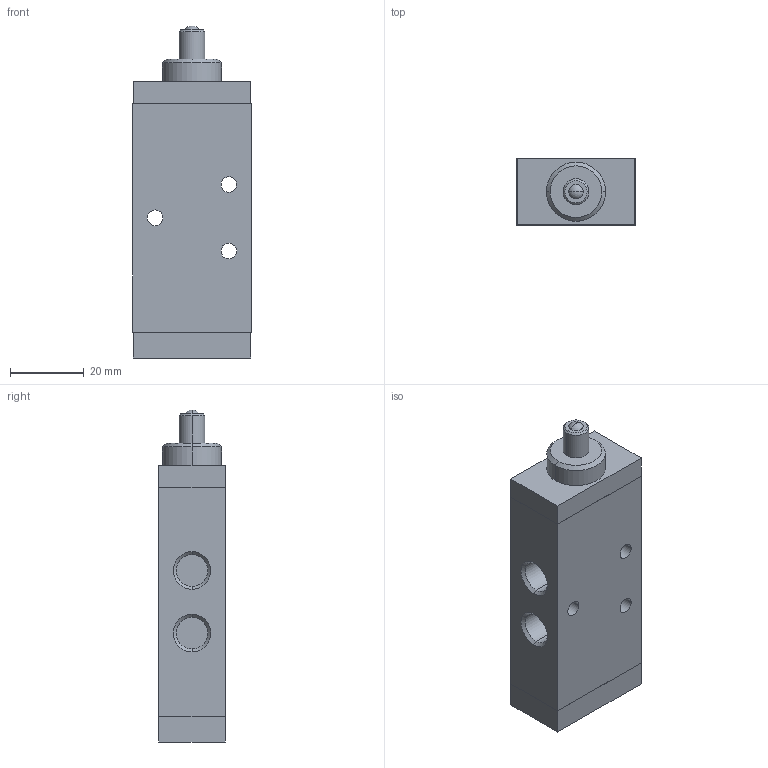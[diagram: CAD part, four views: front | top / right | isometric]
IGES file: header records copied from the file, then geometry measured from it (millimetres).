
Global section: file name: No Iges File Name specified; native system: AutoDesk Inventor R11.0; preprocessor: AutoDesk Inventor Iges Exporter R11.0; author: No Author specified; organization: No Organization specified; date: 20061219.114056; units: millimetre
Bounding box: 32 x 18 x 90 mm (x, y, z)
Volume: 41475.7 mm3; surface area: 10786.6 mm2
Topology: 1 solids, 1 shells, 59 faces, 130 edges, 81 vertices
Faces by surface type: bspline 25, plane 18, revolution 6, cylinder 4, cone 4, sphere 2
